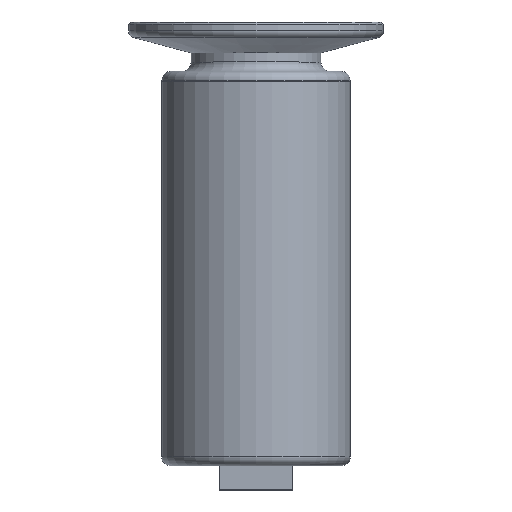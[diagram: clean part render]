
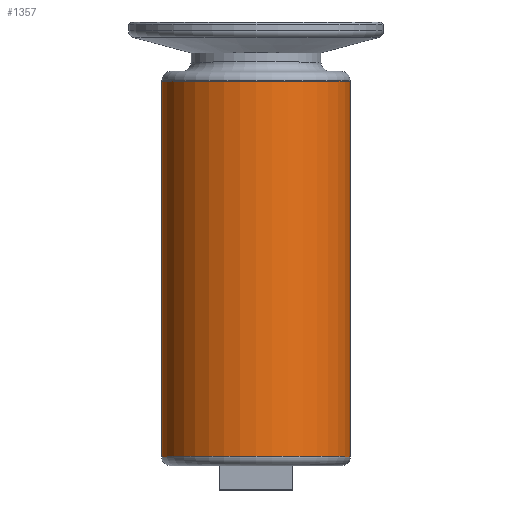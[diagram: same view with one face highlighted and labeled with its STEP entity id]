
A CAD part, top view. The second image highlights one B-rep face of the part: STEP entity #1357.
In plain terms, the highlighted cylindrical face has radius 20.375 mm (diameter 40.75 mm), a full revolution.
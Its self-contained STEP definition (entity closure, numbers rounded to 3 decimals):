
#1323=CARTESIAN_POINT('',(0.0,2.,20.375));
#1324=VERTEX_POINT('',#1323);
#1325=CARTESIAN_POINT('',(0.0,2.,0.0));
#1326=DIRECTION('',(0.0,1.0,0.0));
#1327=DIRECTION('',(0.0,0.0,1.0));
#1328=AXIS2_PLACEMENT_3D('',#1325,#1326,#1327);
#1329=CIRCLE('',#1328,20.375);
#1330=EDGE_CURVE('',#1324,#1324,#1329,.T.);
#1338=CARTESIAN_POINT('',(0.0,42.45,0.0));
#1339=DIRECTION('',(0.0,1.0,0.0));
#1340=DIRECTION('',(0.0,0.0,1.0));
#1341=AXIS2_PLACEMENT_3D('',#1338,#1339,#1340);
#1342=CYLINDRICAL_SURFACE('',#1341,20.375);
#1343=CARTESIAN_POINT('',(0.0,82.9,20.375));
#1344=VERTEX_POINT('',#1343);
#1345=CARTESIAN_POINT('',(0.0,82.9,0.0));
#1346=DIRECTION('',(0.0,1.0,0.0));
#1347=DIRECTION('',(0.0,0.0,1.0));
#1348=AXIS2_PLACEMENT_3D('',#1345,#1346,#1347);
#1349=CIRCLE('',#1348,20.375);
#1350=EDGE_CURVE('',#1344,#1344,#1349,.T.);
#1351=ORIENTED_EDGE('',*,*,#1350,.F.);
#1352=EDGE_LOOP('',(#1351));
#1353=FACE_OUTER_BOUND('',#1352,.T.);
#1354=ORIENTED_EDGE('',*,*,#1330,.T.);
#1355=EDGE_LOOP('',(#1354));
#1356=FACE_BOUND('',#1355,.T.);
#1357=ADVANCED_FACE('',(#1353,#1356),#1342,.T.);
